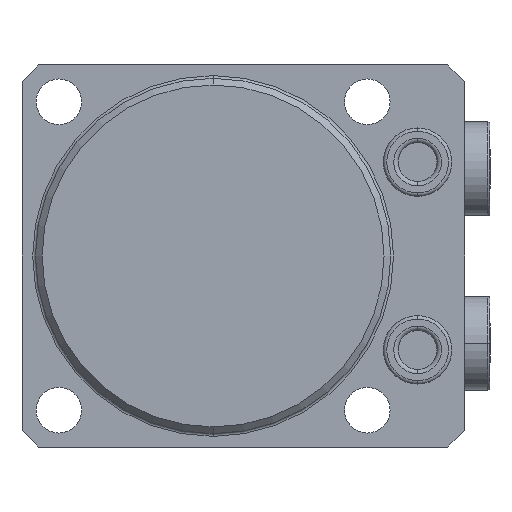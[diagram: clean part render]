
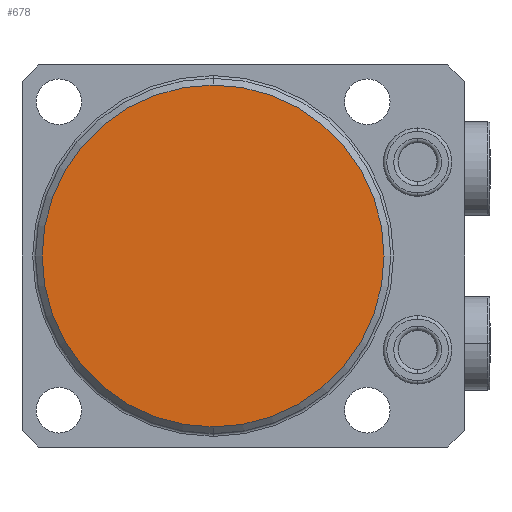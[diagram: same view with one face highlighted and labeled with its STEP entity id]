
A CAD part, front view. The second image highlights one B-rep face of the part: STEP entity #678.
In plain terms, the highlighted planar face has unit normal (0, -1, 0) as drawn and (0, 1, 0) by its records, which use the part's own axes.
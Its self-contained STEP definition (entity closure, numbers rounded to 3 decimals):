
#236=PLANE('',#4848);
#678=ADVANCED_FACE('',(#934),#236,.T.);
#934=FACE_OUTER_BOUND('',#1213,.F.);
#1213=EDGE_LOOP('',(#2819,#2820));
#2819=ORIENTED_EDGE('',*,*,#4029,.T.);
#2820=ORIENTED_EDGE('',*,*,#3940,.T.);
#3396=VERTEX_POINT('',#7398);
#3397=VERTEX_POINT('',#7399);
#3940=EDGE_CURVE('',#3396,#3397,#4338,.T.);
#4029=EDGE_CURVE('',#3397,#3396,#4356,.T.);
#4338=CIRCLE('',#4814,25.5);
#4356=CIRCLE('',#4847,25.5);
#4814=AXIS2_PLACEMENT_3D('',#7397,#6003,#6004);
#4847=AXIS2_PLACEMENT_3D('',#7653,#6117,#6118);
#4848=AXIS2_PLACEMENT_3D('',#7654,#6119,#6120);
#6003=DIRECTION('',(0.,-1.,0.));
#6004=DIRECTION('',(0.,0.,1.));
#6117=DIRECTION('',(0.,-1.,0.));
#6118=DIRECTION('',(0.,0.,1.));
#6119=DIRECTION('',(0.,1.,0.));
#6120=DIRECTION('',(0.,0.,1.));
#7397=CARTESIAN_POINT('',(0.,-42.5,0.));
#7398=CARTESIAN_POINT('',(0.,-42.5,-25.5));
#7399=CARTESIAN_POINT('',(0.,-42.5,25.5));
#7653=CARTESIAN_POINT('',(0.,-42.5,0.));
#7654=CARTESIAN_POINT('',(0.,-42.5,0.));
